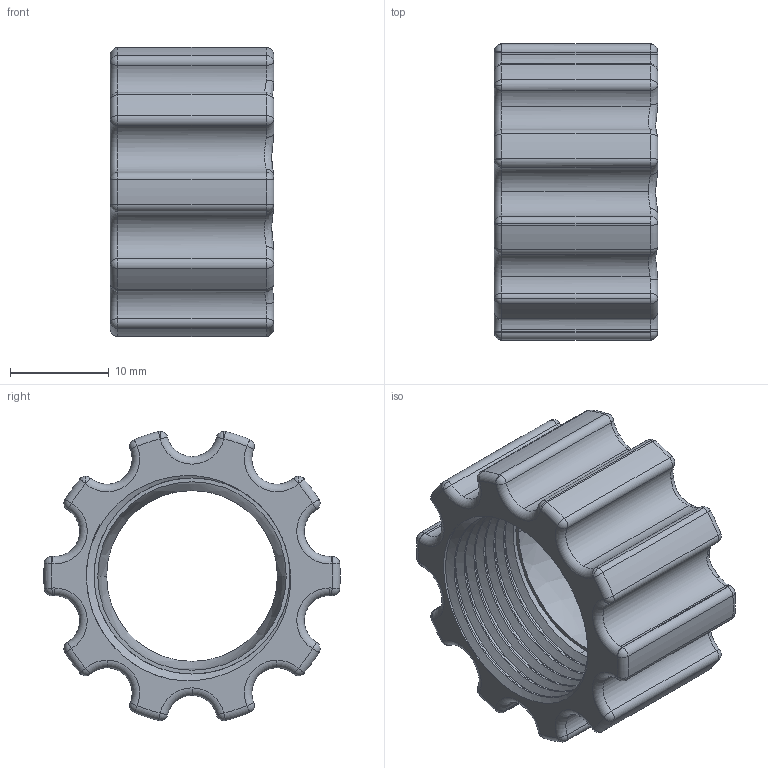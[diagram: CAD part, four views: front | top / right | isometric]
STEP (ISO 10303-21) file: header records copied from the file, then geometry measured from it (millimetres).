
FILE_DESCRIPTION (( 'STEP AP214' ), '1' );
FILE_NAME ('Joint Nut.STEP', '2022-07-18T01:57:36', ( '' ), ( '' ), 'SwSTEP 2.0', 'SolidWorks 2021', '' );
FILE_SCHEMA (( 'AUTOMOTIVE_DESIGN' ));
Length unit declared in the file: inch
Products named in the file (1): Joint Nut
Bounding box: 16.51 x 29.96 x 29.24 mm (x, y, z)
Volume: 4514.4 mm3; surface area: 3791.9 mm2
Topology: 1 solids, 1 shells, 204 faces, 479 edges, 259 vertices
Faces by surface type: cylinder 65, torus 59, sphere 54, plane 13, bspline 13
Entity records: 7391 total; most frequent: CARTESIAN_POINT 2892, DIRECTION 1087, ORIENTED_EDGE 886, AXIS2_PLACEMENT_3D 511, EDGE_CURVE 443, CIRCLE 319, VERTEX_POINT 241, EDGE_LOOP 206
